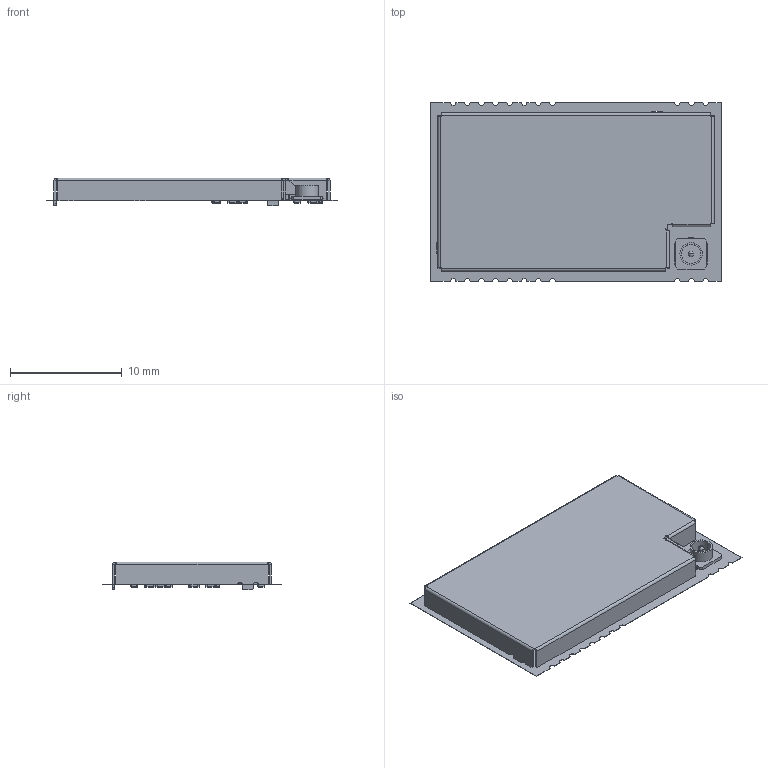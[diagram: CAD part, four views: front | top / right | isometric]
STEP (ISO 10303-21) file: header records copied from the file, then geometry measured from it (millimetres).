
FILE_DESCRIPTION(('Open CASCADE Model'),'2;1');
FILE_NAME('Open CASCADE Shape Model','2023-08-16T16:47:04',('Author'),( 'Open CASCADE'),'Open CASCADE STEP processor 6.2','Open CASCADE 6.2' ,'Unknown');
FILE_SCHEMA(('AUTOMOTIVE_DESIGN { 1 0 10303 214 1 1 1 1 }'));
Length unit declared in the file: millimetre
Products named in the file (79): PCB; Board; C37; CAPC1005X56N_EIA_0402; R9; User_Library-RESC0603X___; R10; R11; R8; R7; LR2; R0402; C36; U4; User_Library-SOT23-5; User_Library-SOT23-5_SOT23-5_Connector_Default; User_Library-SOT23-5_SOT23-5_Body_Default; C4; C1; XT1; User_Library-GeyerElectronics_KX7; U5; R6; R5; R4; R3; R2; R1; LR3; LR1; L9; User_Library-Chip_InductorINDC1005X60N; L8; L7; L6; INDC2012X105N_EIA_0805; L5; L4; L3; L2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
Assembly tree (137 placements, depth 4):
  PCB
    Board
    C37
      CAPC1005X56N_EIA_0402
    R9
      User_Library-RESC0603X___
    R10
      User_Library-RESC0603X___
    R11
      User_Library-RESC0603X___
    R8
      User_Library-RESC0603X___
    R7
      User_Library-RESC0603X___
    LR2
      R0402
    C36
      CAPC1005X56N_EIA_0402
    U4
      User_Library-SOT23-5
        User_Library-SOT23-5_SOT23-5_Connector_Default  x5
        User_Library-SOT23-5_SOT23-5_Body_Default
    C4
      CAPC1005X56N_EIA_0402
    C1
      CAPC1005X56N_EIA_0402
    XT1
      User_Library-GeyerElectronics_KX7
    U5
      User_Library-SOT23-5
        User_Library-SOT23-5_SOT23-5_Connector_Default  x5
        User_Library-SOT23-5_SOT23-5_Body_Default
    R6
      User_Library-RESC0603X___
    R5
      User_Library-RESC0603X___
    R4
      R0402
    R3
      R0402
    R2
      R0402
    R1
      R0402
    LR3
      R0402
    LR1
      R0402
    L9
      User_Library-Chip_InductorINDC1005X60N
    L8
      User_Library-Chip_InductorINDC1005X60N
    L7
      User_Library-Chip_InductorINDC1005X60N
    L6
      INDC2012X105N_EIA_0805
    L5
      User_Library-Chip_InductorINDC1005X60N
    L4
      User_Library-Chip_InductorINDC1005X60N
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Bounding box: 26 x 16 x 2.5 mm (x, y, z)
Volume: 142.9 mm3; surface area: 2045.6 mm2
Topology: 93 solids, 93 shells, 4249 faces, 10124 edges, 5753 vertices
Faces by surface type: plane 2105, cylinder 1150, bspline 556, sphere 426, torus 12
Entity records: 92983 total; most frequent: CARTESIAN_POINT 35677, DIRECTION 8515, LINE 5821, VECTOR 5821, ORIENTED_EDGE 5428, PCURVE 5428, DEFINITIONAL_REPRESENTATION 5428, EDGE_CURVE 2714
